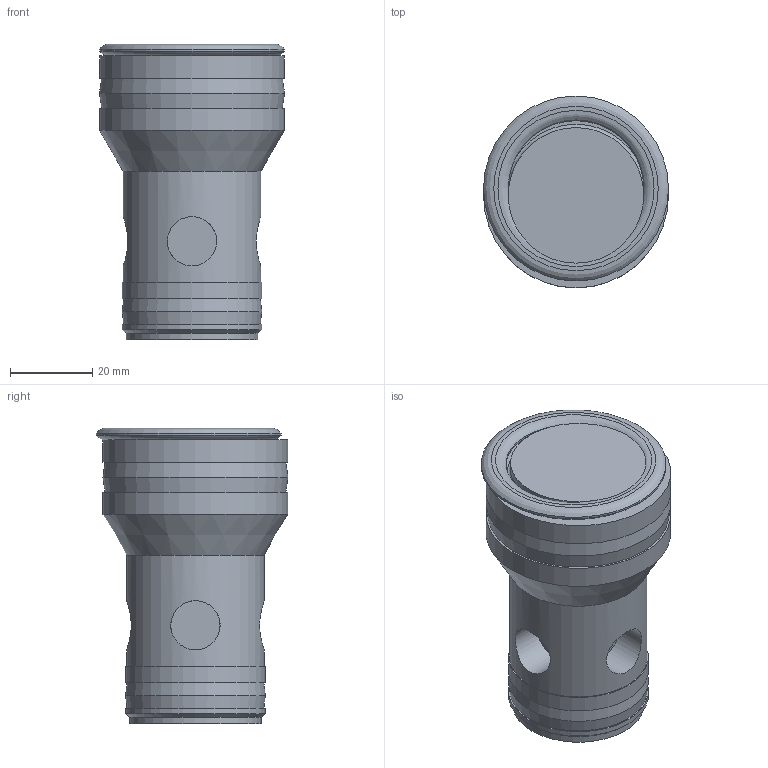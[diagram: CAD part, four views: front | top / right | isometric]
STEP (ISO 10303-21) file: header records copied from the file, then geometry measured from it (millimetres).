
FILE_DESCRIPTION(('Bauteilbeschreibung','HiCAD-Model','HiCAD-STEP-TRANSLATION','Bauteilbeschreibung'),'2;1');
FILE_NAME('C:/_EIGENE_DATEN/DXF_STEP/C_25_4208.STP','2008-10-14T17:06:51+00:00',('Konstrukteur'),('Konstrukteur Firma GmbH'),' HiCAD neXt 2007, Step 3.1.1212.3C ','HiCAD neXt 2007','confidential');
FILE_SCHEMA(('AUTOMOTIVE_DESIGN { 1 2 10303 214 0 1 1 1 }'));
Length unit declared in the file: millimetre
Products named in the file (7): C_25_4208; C_25; F3F2EF2C; F3F2EF2C0; A7885237; EC139117; ABE22658
Assembly tree (6 placements, depth 4):
  C_25_4208
    C_25
      F3F2EF2C
      F3F2EF2C0
        A7885237
        EC139117
        ABE22658
Bounding box: 45 x 46.67 x 72 mm (x, y, z)
Volume: 76901.8 mm3; surface area: 19156.7 mm2
Topology: 4 solids, 4 shells, 54 faces, 95 edges, 58 vertices
Faces by surface type: cylinder 19, plane 18, torus 11, cone 6
Full cylindrical faces by diameter (mm): 12 x4, 29.5 x3, 32 x1, 33 x2, 33.5 x1, 34 x2, 38.8 x3, 45 x3
Entity records: 2437 total; most frequent: CARTESIAN_POINT 1388, DIRECTION 230, AXIS2_PLACEMENT_3D 115, EDGE_LOOP 106, ORIENTED_EDGE 106, ADVANCED_FACE 54, FACE_OUTER_BOUND 54, EDGE_CURVE 53
